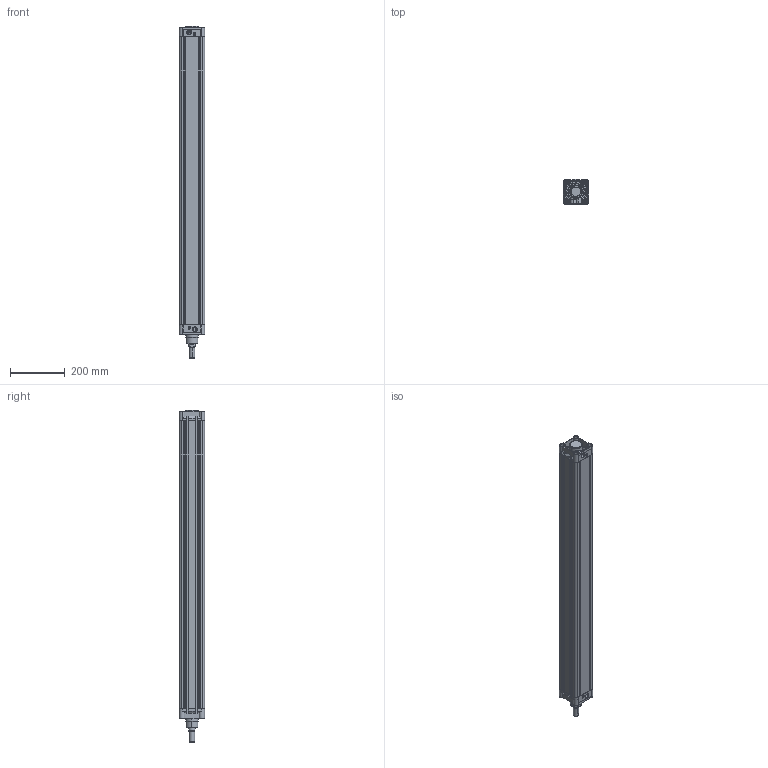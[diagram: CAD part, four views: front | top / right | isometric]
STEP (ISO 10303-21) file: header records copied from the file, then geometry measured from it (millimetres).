
FILE_DESCRIPTION (( 'STEP AP203' ), '1' );
FILE_NAME ('KDNC80x1000CYLINDER.STEP', '2015-03-04T13:38:54', ( 'user' ), ( '' ), 'SwSTEP 2.0', 'SolidWorks 2013', '' );
FILE_SCHEMA (( 'CONFIG_CONTROL_DESIGN' ));
Length unit declared in the file: millimetre
Products named in the file (6): KDNC80x1000CYLINDER; ARKA KAPAK  80; ORTA PÝSTON 80; Piston Mili 80x1000; 烰 KAPAK  80; KDNC 80x1000 BORU
Assembly tree (5 placements, depth 2):
  KDNC80x1000CYLINDER
    ARKA KAPAK  80
    ORTA PÝSTON 80
    Piston Mili 80x1000
    烰 KAPAK  80
    KDNC 80x1000 BORU
Bounding box: 93 x 93.3 x 1218 mm (x, y, z)
Volume: 4132624.9 mm3; surface area: 1149672.3 mm2
Topology: 5 solids, 5 shells, 1061 faces, 2840 edges, 1825 vertices
Faces by surface type: cylinder 411, plane 360, cone 194, bspline 96
Entity records: 46212 total; most frequent: CARTESIAN_POINT 21194, ORIENTED_EDGE 5660, DIRECTION 4210, EDGE_CURVE 2830, VERTEX_POINT 1825, AXIS2_PLACEMENT_3D 1499, VECTOR 1212, LINE 1212
